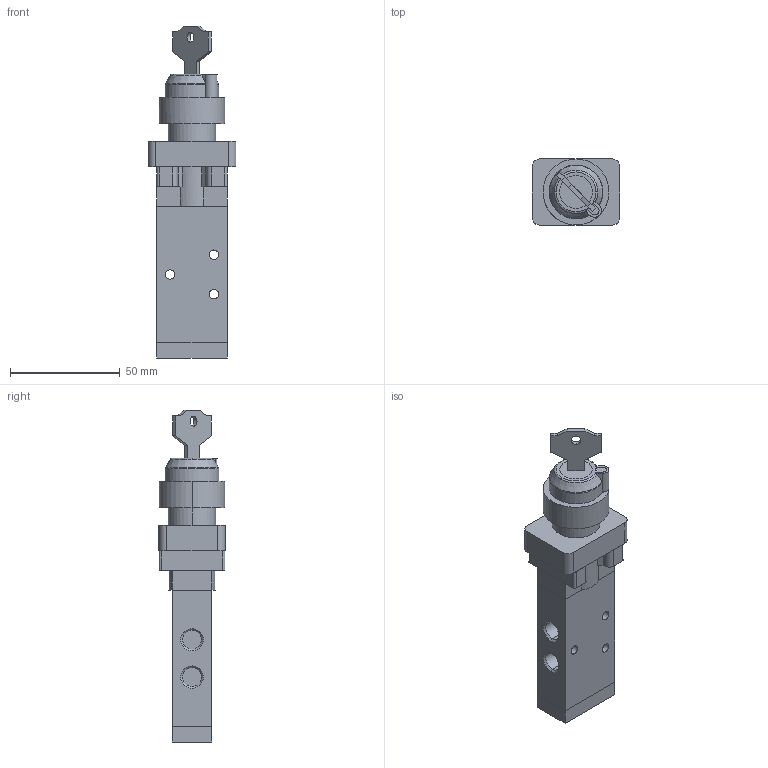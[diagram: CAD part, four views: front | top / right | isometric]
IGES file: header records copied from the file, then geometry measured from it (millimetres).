
Global section: file name: No Iges File Name specified; native system: AutoDesk Inventor R11.0; preprocessor: AutoDesk Inventor Iges Exporter R11.0; author: No Author specified; organization: No Organization specified; date: 20061219.114237; units: millimetre
Bounding box: 40 x 30.02 x 151 mm (x, y, z)
Volume: 79869.3 mm3; surface area: 18532.6 mm2
Topology: 1 solids, 1 shells, 131 faces, 337 edges, 219 vertices
Faces by surface type: plane 67, bspline 25, cylinder 20, revolution 15, torus 3, cone 1
